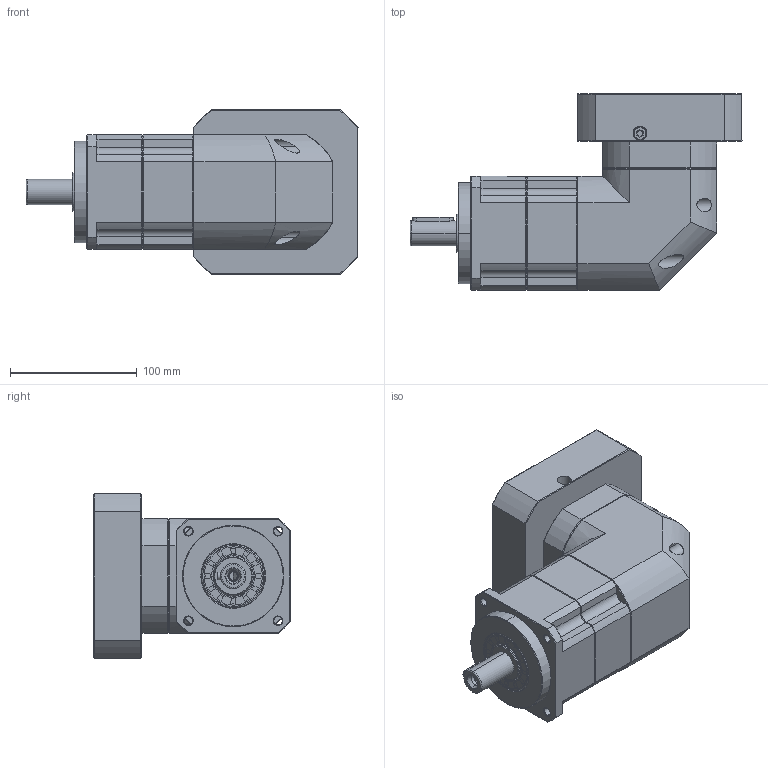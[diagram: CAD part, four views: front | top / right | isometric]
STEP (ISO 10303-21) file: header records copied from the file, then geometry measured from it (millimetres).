
FILE_DESCRIPTION (( 'STEP AP214' ), '1' );
FILE_NAME ('ZPBR090-D20-L2-P1-22-110-130-M8.step', '2024-06-10T07:31:50', ( 'Windows 蚚誧' ), ( 'Organization' ), 'SwSTEP 2.0', 'SolidWorks 2016', '' );
FILE_SCHEMA (( 'AUTOMOTIVE_DESIGN' ));
Length unit declared in the file: millimetre
Products named in the file (1): ZPBR090-D20-L2-P1-22-110-130-M8
Bounding box: 262 x 155 x 130 mm (x, y, z)
Surface area: 165921.2 mm2 (no closed solid volume)
Topology: 0 solids, 33 shells, 1939 faces, 5133 edges, 3280 vertices
Faces by surface type: plane 1042, bspline 387, cone 264, cylinder 229, torus 17
Full cylindrical faces by diameter (mm): 6.72 x1
Entity records: 96617 total; most frequent: CARTESIAN_POINT 47853, ORIENTED_EDGE 10217, DIRECTION 7968, EDGE_CURVE 5128, LINE 3418, VECTOR 3418, VERTEX_POINT 3278, AXIS2_PLACEMENT_3D 2275
